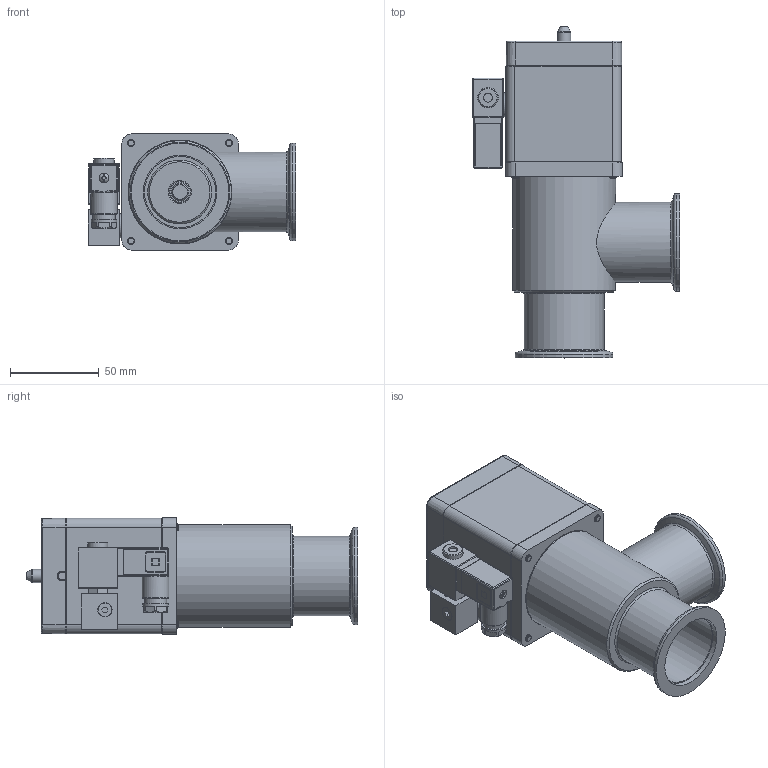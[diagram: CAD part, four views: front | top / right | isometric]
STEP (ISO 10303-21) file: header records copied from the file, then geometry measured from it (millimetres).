
FILE_DESCRIPTION(/* description */ (''),/* implementation_level */ '2;1');
FILE_NAME(/* name */ '1088395698_203.stp',/* time_stamp */ '2013-08-30T07:13:31+02:00',/* author */ (''),/* organization */ (''),/* preprocessor_version */ 'ST-DEVELOPER v11',/* originating_system */ 'SIEMENS PLM Software NX 7.5',/* authorisation */ '');
FILE_SCHEMA (('AP203_CONFIGURATION_CONTROLLED_3D_DESIGN_OF_MECHANICAL_PARTS_AND_ASSEMBLIES_MIM_LF'));
Length unit declared in the file: millimetre
Products named in the file (16): 467882; 437235; 244091.2; 233232; 236204_1.1; 240513.1; 240512.10; 240511.9; 243875.2; 239737.6; 240792.1; n-8501-400.2_MODELNX-ARRAGMNTArrangement 1; 443457; 239984.1; 240510.14; 701813
Assembly tree (19 placements, depth 4):
  701813
    240792.1  x4
    239737.6
    240510.14
      240511.9
      240512.10
      240513.1
    243875.2
    239984.1
      236204_1.1  x2
      233232
    443457
      244091.2
      n-8501-400.2_MODELNX-ARRAGMNTArrangement 1
        437235
        467882
Bounding box: 116.58 x 186.79 x 65.4 mm (x, y, z)
Volume: 248028.5 mm3; surface area: 140252.8 mm2
Topology: 24 solids, 25 shells, 816 faces, 2016 edges, 1312 vertices
Faces by surface type: plane 492, cylinder 185, cone 94, bspline 22, torus 18, sphere 5
Full cylindrical faces by diameter (mm): 2 x1, 2.5 x6, 2.8 x1, 2.95 x1, 3 x8, 3.26 x4, 3.3 x4, 4 x12, 4.22 x1, 4.5 x5, 4.6 x1, 4.7 x3, 5 x4, 5.5 x1, 5.6 x2, 7 x4, 7.4 x2, 7.6 x1, 7.9 x1, 8 x8, 9.1 x1, 10 x1, 10.2 x1, 11.3 x1, 11.4 x1, 11.5 x1, 11.975 x3, 12.012 x1, 12.013 x1, 12.5 x1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
Entity records: 25957 total; most frequent: CARTESIAN_POINT 5397, DIRECTION 3530, ORIENTED_EDGE 3302, EDGE_CURVE 1651, AXIS2_PLACEMENT_3D 1234, VERTEX_POINT 1181, LINE 1062, VECTOR 1062
